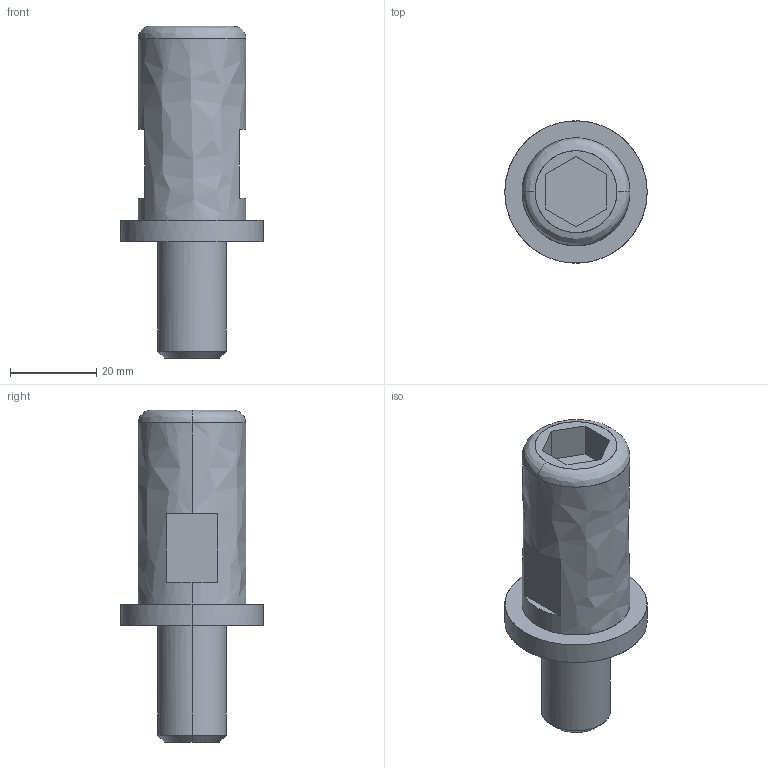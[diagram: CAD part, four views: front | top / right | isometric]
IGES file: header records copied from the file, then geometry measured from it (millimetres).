
Global section: file name: E:\UnigraphicsGraphicData\MISUMI_PRESS-PARTS\IGES\3d_sga33-50_00791_r00.igs; native system: NX V5.0; preprocessor: UGS NX IGES V5.0; author: MISUMI; date: 20110105.162530; units: millimetre
Bounding box: 33 x 33 x 77 mm (x, y, z)
Surface area: 7384.5 mm2 (no closed solid volume)
Topology: 0 solids, 0 shells, 27 faces, 176 edges, 176 vertices
Faces by surface type: bspline 27
